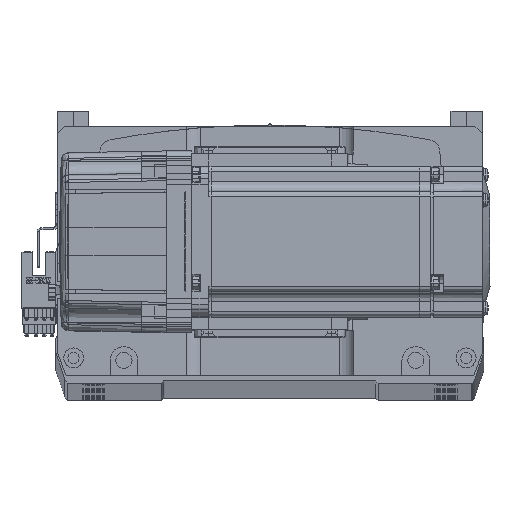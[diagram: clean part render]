
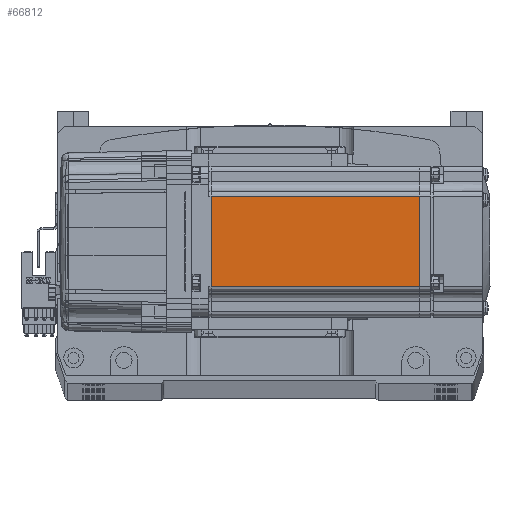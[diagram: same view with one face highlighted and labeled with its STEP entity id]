
A CAD part, top view. The second image highlights one B-rep face of the part: STEP entity #66812.
In plain terms, the highlighted planar face has unit normal (0, 0, 1) as drawn and (0, -1, 0) by its records, which use the part's own axes.
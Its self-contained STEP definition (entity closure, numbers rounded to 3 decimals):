
#2114 = CARTESIAN_POINT ( 'NONE',  ( -90.45, -30., 18. ) ) ;
#3814 = LINE ( 'NONE', #25464, #29982 ) ;
#4039 = DIRECTION ( 'NONE',  ( 0., 0., -1. ) ) ;
#5000 = CARTESIAN_POINT ( 'NONE',  ( -90.45, -30., -18. ) ) ;
#5548 = EDGE_LOOP ( 'NONE', ( #50467, #69980, #39503, #57169 ) ) ;
#14981 = VECTOR ( 'NONE', #37816, 1000. ) ;
#21632 = CARTESIAN_POINT ( 'NONE',  ( -7.75, -30., -25. ) ) ;
#21679 = PLANE ( 'NONE',  #51415 ) ;
#22280 = VECTOR ( 'NONE', #59081, 1000. ) ;
#25464 = CARTESIAN_POINT ( 'NONE',  ( -6.5, -30., 18. ) ) ;
#27009 = CARTESIAN_POINT ( 'NONE',  ( -6.5, -30., -25. ) ) ;
#27440 = DIRECTION ( 'NONE',  ( 0., 0., 1. ) ) ;
#29982 = VECTOR ( 'NONE', #42907, 1000. ) ;
#30595 = VERTEX_POINT ( 'NONE', #5000 ) ;
#33957 = LINE ( 'NONE', #21632, #61078 ) ;
#34331 = CARTESIAN_POINT ( 'NONE',  ( -90.45, -30., -25. ) ) ;
#35707 = LINE ( 'NONE', #41822, #14981 ) ;
#37497 = EDGE_CURVE ( 'NONE', #68794, #55132, #3814, .T. ) ;
#37816 = DIRECTION ( 'NONE',  ( 1., 0., 0. ) ) ;
#39503 = ORIENTED_EDGE ( 'NONE', *, *, #48228, .T. ) ;
#41822 = CARTESIAN_POINT ( 'NONE',  ( -6.5, -30., -18. ) ) ;
#42907 = DIRECTION ( 'NONE',  ( -1., 0., 0. ) ) ;
#48228 = EDGE_CURVE ( 'NONE', #55132, #30595, #58419, .T. ) ;
#48734 = EDGE_CURVE ( 'NONE', #52424, #68794, #33957, .T. ) ;
#50467 = ORIENTED_EDGE ( 'NONE', *, *, #48734, .T. ) ;
#51415 = AXIS2_PLACEMENT_3D ( 'NONE', #27009, #73450, #4039 ) ;
#52424 = VERTEX_POINT ( 'NONE', #71572 ) ;
#52770 = FACE_OUTER_BOUND ( 'NONE', #5548, .T. ) ;
#55132 = VERTEX_POINT ( 'NONE', #2114 ) ;
#57169 = ORIENTED_EDGE ( 'NONE', *, *, #69364, .T. ) ;
#58419 = LINE ( 'NONE', #34331, #22280 ) ;
#59081 = DIRECTION ( 'NONE',  ( 0., 0., -1. ) ) ;
#59337 = CARTESIAN_POINT ( 'NONE',  ( -7.75, -30., 18. ) ) ;
#61078 = VECTOR ( 'NONE', #27440, 1000. ) ;
#66812 = ADVANCED_FACE ( 'NONE', ( #52770 ), #21679, .T. ) ;
#68794 = VERTEX_POINT ( 'NONE', #59337 ) ;
#69364 = EDGE_CURVE ( 'NONE', #30595, #52424, #35707, .T. ) ;
#69980 = ORIENTED_EDGE ( 'NONE', *, *, #37497, .T. ) ;
#71572 = CARTESIAN_POINT ( 'NONE',  ( -7.75, -30., -18. ) ) ;
#73450 = DIRECTION ( 'NONE',  ( 0., -1., 0. ) ) ;
